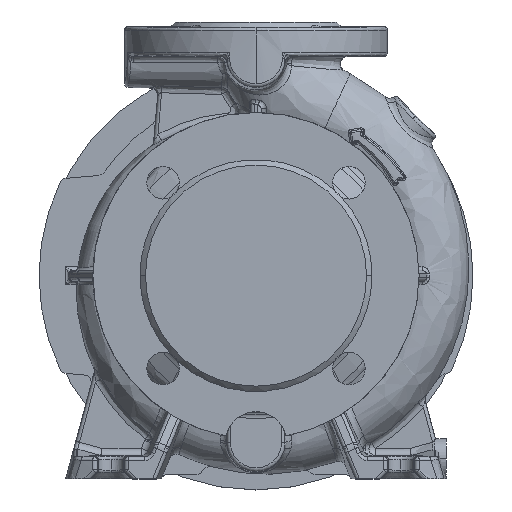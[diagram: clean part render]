
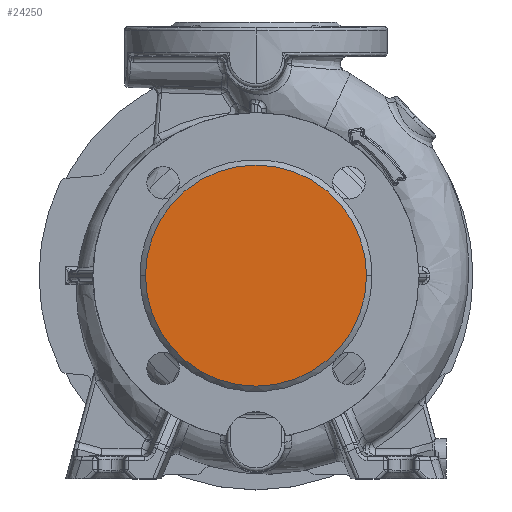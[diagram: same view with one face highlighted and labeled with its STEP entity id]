
A CAD part, top view. The second image highlights one B-rep face of the part: STEP entity #24250.
In plain terms, the highlighted planar face has unit normal (0, 0, 1).
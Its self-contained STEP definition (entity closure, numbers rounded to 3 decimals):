
#2179 = DIRECTION ( 'NONE',  ( 0., 0., 1. ) ) ;
#2682 = DIRECTION ( 'NONE',  ( 1., 0., 0. ) ) ;
#2744 = ORIENTED_EDGE ( 'NONE', *, *, #48217, .T. ) ;
#7494 = AXIS2_PLACEMENT_3D ( 'NONE', #55806, #16331, #44252 ) ;
#11716 = VERTEX_POINT ( 'NONE', #72373 ) ;
#11760 = EDGE_CURVE ( 'NONE', #40035, #11716, #32218, .T. ) ;
#16331 = DIRECTION ( 'NONE',  ( 0., 0., 1. ) ) ;
#20368 = EDGE_LOOP ( 'NONE', ( #45044, #2744 ) ) ;
#21031 = CIRCLE ( 'NONE', #53395, 61. ) ;
#24250 = ADVANCED_FACE ( 'NONE', ( #29948 ), #36244, .T. ) ;
#29948 = FACE_OUTER_BOUND ( 'NONE', #20368, .T. ) ;
#32218 = CIRCLE ( 'NONE', #7494, 61. ) ;
#36244 = PLANE ( 'NONE',  #50309 ) ;
#39155 = CARTESIAN_POINT ( 'NONE',  ( 0., 0., 80. ) ) ;
#39884 = DIRECTION ( 'NONE',  ( 0., 0., 1. ) ) ;
#40035 = VERTEX_POINT ( 'NONE', #55244 ) ;
#44252 = DIRECTION ( 'NONE',  ( 1., 0., 0. ) ) ;
#45044 = ORIENTED_EDGE ( 'NONE', *, *, #11760, .T. ) ;
#45567 = DIRECTION ( 'NONE',  ( 1., 0., 0. ) ) ;
#48217 = EDGE_CURVE ( 'NONE', #11716, #40035, #21031, .T. ) ;
#50309 = AXIS2_PLACEMENT_3D ( 'NONE', #52505, #2179, #2682 ) ;
#52505 = CARTESIAN_POINT ( 'NONE',  ( 0., 0., 80. ) ) ;
#53395 = AXIS2_PLACEMENT_3D ( 'NONE', #39155, #39884, #45567 ) ;
#55244 = CARTESIAN_POINT ( 'NONE',  ( -61., 0., 80. ) ) ;
#55806 = CARTESIAN_POINT ( 'NONE',  ( 0., 0., 80. ) ) ;
#72373 = CARTESIAN_POINT ( 'NONE',  ( 61., 0., 80. ) ) ;
